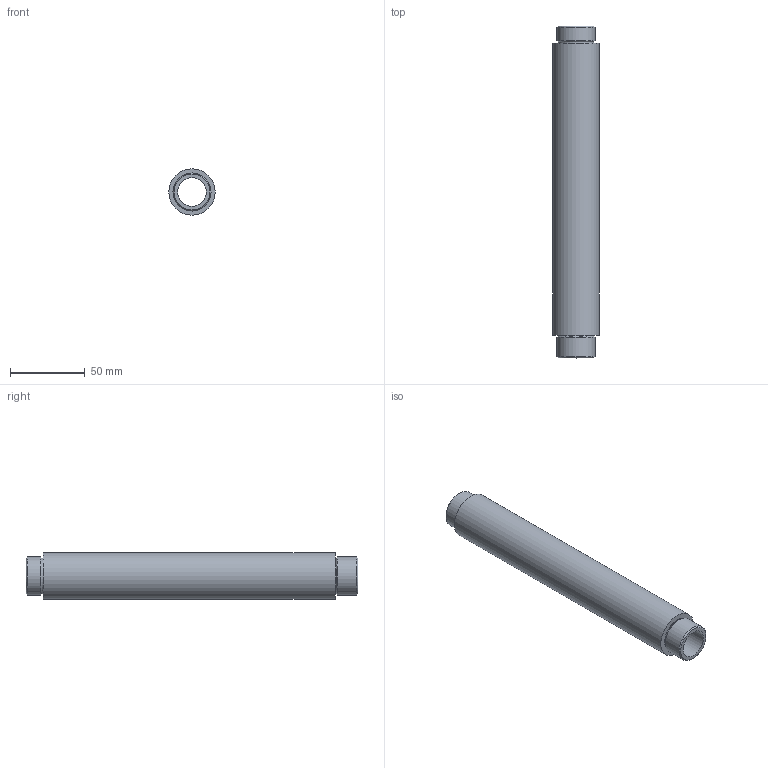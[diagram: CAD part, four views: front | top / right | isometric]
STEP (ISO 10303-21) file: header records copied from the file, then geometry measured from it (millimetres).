
FILE_DESCRIPTION (( 'STEP AP203' ), '1' );
FILE_NAME ('BTA-19-CM-CM-0195.STEP', '2012-04-11T14:08:06', ( '' ), ( '' ), 'SwSTEP 2.0', 'SolidWorks 2012', '' );
FILE_SCHEMA (( 'CONFIG_CONTROL_DESIGN' ));
Length unit declared in the file: inch
Products named in the file (1): BTA-19-CM-CM-0195
Bounding box: 30.94 x 221.59 x 30.94 mm (x, y, z)
Volume: 96687.4 mm3; surface area: 35354.4 mm2
Topology: 1 solids, 1 shells, 14 faces, 24 edges, 14 vertices
Faces by surface type: cylinder 6, plane 4, cone 4
Full cylindrical faces by diameter (mm): 19.05 x1, 23.812 x1, 23.813 x1, 25.4 x2, 30.937 x1
Entity records: 367 total; most frequent: DIRECTION 58, CARTESIAN_POINT 43, AXIS2_PLACEMENT_3D 29, EDGE_LOOP 28, ORIENTED_EDGE 28, FACE_OUTER_BOUND 20, EDGE_CURVE 14, VERTEX_POINT 14
